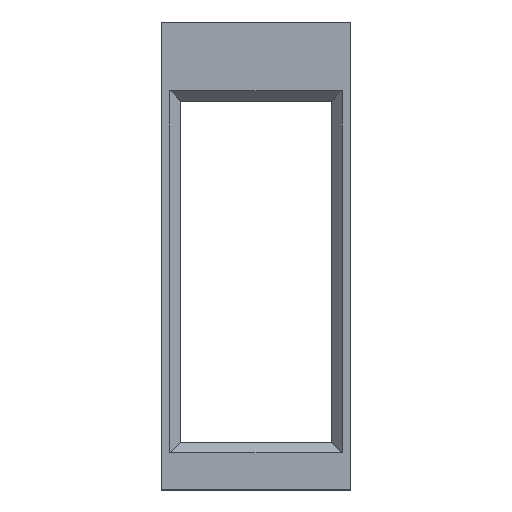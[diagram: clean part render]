
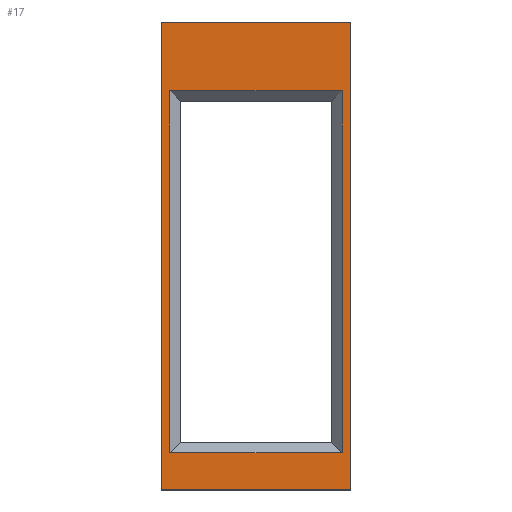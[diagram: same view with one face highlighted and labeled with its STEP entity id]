
A CAD part, top view. The second image highlights one B-rep face of the part: STEP entity #17.
In plain terms, the highlighted planar face has unit normal (0, 0, 1).
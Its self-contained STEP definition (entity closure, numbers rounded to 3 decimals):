
#17 = ADVANCED_FACE('',(#18,#137),#32,.T.);
#18 = FACE_BOUND('',#19,.T.);
#19 = EDGE_LOOP('',(#20,#55,#83,#111));
#20 = ORIENTED_EDGE('',*,*,#21,.T.);
#21 = EDGE_CURVE('',#22,#24,#26,.T.);
#22 = VERTEX_POINT('',#23);
#23 = CARTESIAN_POINT('',(6.8,13.05,0.));
#24 = VERTEX_POINT('',#25);
#25 = CARTESIAN_POINT('',(6.8,-15.55,0.));
#26 = SURFACE_CURVE('',#27,(#31,#43),.PCURVE_S1.);
#27 = LINE('',#28,#29);
#28 = CARTESIAN_POINT('',(6.8,13.05,0.));
#29 = VECTOR('',#30,1.);
#30 = DIRECTION('',(-0.,-1.,-0.));
#31 = PCURVE('',#32,#37);
#32 = PLANE('',#33);
#33 = AXIS2_PLACEMENT_3D('',#34,#35,#36);
#34 = CARTESIAN_POINT('',(0.,0.,0.));
#35 = DIRECTION('',(0.,0.,1.));
#36 = DIRECTION('',(1.,0.,0.));
#37 = DEFINITIONAL_REPRESENTATION('',(#38),#42);
#38 = LINE('',#39,#40);
#39 = CARTESIAN_POINT('',(6.8,13.05));
#40 = VECTOR('',#41,1.);
#41 = DIRECTION('',(0.,-1.));
#42 = ( GEOMETRIC_REPRESENTATION_CONTEXT(2) 
PARAMETRIC_REPRESENTATION_CONTEXT() REPRESENTATION_CONTEXT('2D SPACE',''
  ) );
#43 = PCURVE('',#44,#49);
#44 = PLANE('',#45);
#45 = AXIS2_PLACEMENT_3D('',#46,#47,#48);
#46 = CARTESIAN_POINT('',(6.411,-1.25,-0.389));
#47 = DIRECTION('',(-0.707,0.,0.707));
#48 = DIRECTION('',(-0.707,0.,-0.707));
#49 = DEFINITIONAL_REPRESENTATION('',(#50),#54);
#50 = LINE('',#51,#52);
#51 = CARTESIAN_POINT('',(-0.55,-14.3));
#52 = VECTOR('',#53,1.);
#53 = DIRECTION('',(0.,1.));
#54 = ( GEOMETRIC_REPRESENTATION_CONTEXT(2) 
PARAMETRIC_REPRESENTATION_CONTEXT() REPRESENTATION_CONTEXT('2D SPACE',''
  ) );
#55 = ORIENTED_EDGE('',*,*,#56,.F.);
#56 = EDGE_CURVE('',#57,#24,#59,.T.);
#57 = VERTEX_POINT('',#58);
#58 = CARTESIAN_POINT('',(-6.8,-15.55,0.));
#59 = SURFACE_CURVE('',#60,(#64,#71),.PCURVE_S1.);
#60 = LINE('',#61,#62);
#61 = CARTESIAN_POINT('',(-3.,-15.55,0.));
#62 = VECTOR('',#63,1.);
#63 = DIRECTION('',(1.,0.,0.));
#64 = PCURVE('',#32,#65);
#65 = DEFINITIONAL_REPRESENTATION('',(#66),#70);
#66 = LINE('',#67,#68);
#67 = CARTESIAN_POINT('',(-3.,-15.55));
#68 = VECTOR('',#69,1.);
#69 = DIRECTION('',(1.,0.));
#70 = ( GEOMETRIC_REPRESENTATION_CONTEXT(2) 
PARAMETRIC_REPRESENTATION_CONTEXT() REPRESENTATION_CONTEXT('2D SPACE',''
  ) );
#71 = PCURVE('',#72,#77);
#72 = PLANE('',#73);
#73 = AXIS2_PLACEMENT_3D('',#74,#75,#76);
#74 = CARTESIAN_POINT('',(-6.,-15.15,-0.4));
#75 = DIRECTION('',(0.,-0.707,-0.707)
  );
#76 = DIRECTION('',(-1.,0.,0.));
#77 = DEFINITIONAL_REPRESENTATION('',(#78),#82);
#78 = LINE('',#79,#80);
#79 = CARTESIAN_POINT('',(-3.,-0.566));
#80 = VECTOR('',#81,1.);
#81 = DIRECTION('',(-1.,0.));
#82 = ( GEOMETRIC_REPRESENTATION_CONTEXT(2) 
PARAMETRIC_REPRESENTATION_CONTEXT() REPRESENTATION_CONTEXT('2D SPACE',''
  ) );
#83 = ORIENTED_EDGE('',*,*,#84,.F.);
#84 = EDGE_CURVE('',#85,#57,#87,.T.);
#85 = VERTEX_POINT('',#86);
#86 = CARTESIAN_POINT('',(-6.8,13.05,0.));
#87 = SURFACE_CURVE('',#88,(#92,#99),.PCURVE_S1.);
#88 = LINE('',#89,#90);
#89 = CARTESIAN_POINT('',(-6.8,-14.75,0.));
#90 = VECTOR('',#91,1.);
#91 = DIRECTION('',(0.,-1.,0.));
#92 = PCURVE('',#32,#93);
#93 = DEFINITIONAL_REPRESENTATION('',(#94),#98);
#94 = LINE('',#95,#96);
#95 = CARTESIAN_POINT('',(-6.8,-14.75));
#96 = VECTOR('',#97,1.);
#97 = DIRECTION('',(0.,-1.));
#98 = ( GEOMETRIC_REPRESENTATION_CONTEXT(2) 
PARAMETRIC_REPRESENTATION_CONTEXT() REPRESENTATION_CONTEXT('2D SPACE',''
  ) );
#99 = PCURVE('',#100,#105);
#100 = PLANE('',#101);
#101 = AXIS2_PLACEMENT_3D('',#102,#103,#104);
#102 = CARTESIAN_POINT('',(-6.411,-1.25,-0.389));
#103 = DIRECTION('',(0.707,0.,0.707));
#104 = DIRECTION('',(-0.707,0.,0.707));
#105 = DEFINITIONAL_REPRESENTATION('',(#106),#110);
#106 = LINE('',#107,#108);
#107 = CARTESIAN_POINT('',(0.55,13.5));
#108 = VECTOR('',#109,1.);
#109 = DIRECTION('',(0.,1.));
#110 = ( GEOMETRIC_REPRESENTATION_CONTEXT(2) 
PARAMETRIC_REPRESENTATION_CONTEXT() REPRESENTATION_CONTEXT('2D SPACE',''
  ) );
#111 = ORIENTED_EDGE('',*,*,#112,.F.);
#112 = EDGE_CURVE('',#22,#85,#113,.T.);
#113 = SURFACE_CURVE('',#114,(#118,#125),.PCURVE_S1.);
#114 = LINE('',#115,#116);
#115 = CARTESIAN_POINT('',(3.,13.05,0.));
#116 = VECTOR('',#117,1.);
#117 = DIRECTION('',(-1.,0.,0.));
#118 = PCURVE('',#32,#119);
#119 = DEFINITIONAL_REPRESENTATION('',(#120),#124);
#120 = LINE('',#121,#122);
#121 = CARTESIAN_POINT('',(3.,13.05));
#122 = VECTOR('',#123,1.);
#123 = DIRECTION('',(-1.,0.));
#124 = ( GEOMETRIC_REPRESENTATION_CONTEXT(2) 
PARAMETRIC_REPRESENTATION_CONTEXT() REPRESENTATION_CONTEXT('2D SPACE',''
  ) );
#125 = PCURVE('',#126,#131);
#126 = PLANE('',#127);
#127 = AXIS2_PLACEMENT_3D('',#128,#129,#130);
#128 = CARTESIAN_POINT('',(6.,12.65,-0.4));
#129 = DIRECTION('',(0.,0.707,-0.707)
  );
#130 = DIRECTION('',(1.,0.,0.));
#131 = DEFINITIONAL_REPRESENTATION('',(#132),#136);
#132 = LINE('',#133,#134);
#133 = CARTESIAN_POINT('',(-3.,-0.566));
#134 = VECTOR('',#135,1.);
#135 = DIRECTION('',(-1.,0.));
#136 = ( GEOMETRIC_REPRESENTATION_CONTEXT(2) 
PARAMETRIC_REPRESENTATION_CONTEXT() REPRESENTATION_CONTEXT('2D SPACE',''
  ) );
#137 = FACE_BOUND('',#138,.T.);
#138 = EDGE_LOOP('',(#139,#169,#197,#225));
#139 = ORIENTED_EDGE('',*,*,#140,.T.);
#140 = EDGE_CURVE('',#141,#143,#145,.T.);
#141 = VERTEX_POINT('',#142);
#142 = CARTESIAN_POINT('',(-7.5,18.5,0.));
#143 = VERTEX_POINT('',#144);
#144 = CARTESIAN_POINT('',(-7.5,-18.5,0.));
#145 = SURFACE_CURVE('',#146,(#150,#157),.PCURVE_S1.);
#146 = LINE('',#147,#148);
#147 = CARTESIAN_POINT('',(-7.5,18.5,0.));
#148 = VECTOR('',#149,1.);
#149 = DIRECTION('',(0.,-1.,0.));
#150 = PCURVE('',#32,#151);
#151 = DEFINITIONAL_REPRESENTATION('',(#152),#156);
#152 = LINE('',#153,#154);
#153 = CARTESIAN_POINT('',(-7.5,18.5));
#154 = VECTOR('',#155,1.);
#155 = DIRECTION('',(0.,-1.));
#156 = ( GEOMETRIC_REPRESENTATION_CONTEXT(2) 
PARAMETRIC_REPRESENTATION_CONTEXT() REPRESENTATION_CONTEXT('2D SPACE',''
  ) );
#157 = PCURVE('',#158,#163);
#158 = PLANE('',#159);
#159 = AXIS2_PLACEMENT_3D('',#160,#161,#162);
#160 = CARTESIAN_POINT('',(-7.5,18.5,0.));
#161 = DIRECTION('',(-1.,0.,0.));
#162 = DIRECTION('',(0.,-1.,0.));
#163 = DEFINITIONAL_REPRESENTATION('',(#164),#168);
#164 = LINE('',#165,#166);
#165 = CARTESIAN_POINT('',(0.,0.));
#166 = VECTOR('',#167,1.);
#167 = DIRECTION('',(1.,0.));
#168 = ( GEOMETRIC_REPRESENTATION_CONTEXT(2) 
PARAMETRIC_REPRESENTATION_CONTEXT() REPRESENTATION_CONTEXT('2D SPACE',''
  ) );
#169 = ORIENTED_EDGE('',*,*,#170,.T.);
#170 = EDGE_CURVE('',#143,#171,#173,.T.);
#171 = VERTEX_POINT('',#172);
#172 = CARTESIAN_POINT('',(7.5,-18.5,0.));
#173 = SURFACE_CURVE('',#174,(#178,#185),.PCURVE_S1.);
#174 = LINE('',#175,#176);
#175 = CARTESIAN_POINT('',(-7.5,-18.5,0.));
#176 = VECTOR('',#177,1.);
#177 = DIRECTION('',(1.,0.,0.));
#178 = PCURVE('',#32,#179);
#179 = DEFINITIONAL_REPRESENTATION('',(#180),#184);
#180 = LINE('',#181,#182);
#181 = CARTESIAN_POINT('',(-7.5,-18.5));
#182 = VECTOR('',#183,1.);
#183 = DIRECTION('',(1.,0.));
#184 = ( GEOMETRIC_REPRESENTATION_CONTEXT(2) 
PARAMETRIC_REPRESENTATION_CONTEXT() REPRESENTATION_CONTEXT('2D SPACE',''
  ) );
#185 = PCURVE('',#186,#191);
#186 = PLANE('',#187);
#187 = AXIS2_PLACEMENT_3D('',#188,#189,#190);
#188 = CARTESIAN_POINT('',(-7.5,-18.5,0.));
#189 = DIRECTION('',(0.,-1.,0.));
#190 = DIRECTION('',(1.,0.,0.));
#191 = DEFINITIONAL_REPRESENTATION('',(#192),#196);
#192 = LINE('',#193,#194);
#193 = CARTESIAN_POINT('',(0.,0.));
#194 = VECTOR('',#195,1.);
#195 = DIRECTION('',(1.,0.));
#196 = ( GEOMETRIC_REPRESENTATION_CONTEXT(2) 
PARAMETRIC_REPRESENTATION_CONTEXT() REPRESENTATION_CONTEXT('2D SPACE',''
  ) );
#197 = ORIENTED_EDGE('',*,*,#198,.T.);
#198 = EDGE_CURVE('',#171,#199,#201,.T.);
#199 = VERTEX_POINT('',#200);
#200 = CARTESIAN_POINT('',(7.5,18.5,0.));
#201 = SURFACE_CURVE('',#202,(#206,#213),.PCURVE_S1.);
#202 = LINE('',#203,#204);
#203 = CARTESIAN_POINT('',(7.5,-18.5,0.));
#204 = VECTOR('',#205,1.);
#205 = DIRECTION('',(0.,1.,0.));
#206 = PCURVE('',#32,#207);
#207 = DEFINITIONAL_REPRESENTATION('',(#208),#212);
#208 = LINE('',#209,#210);
#209 = CARTESIAN_POINT('',(7.5,-18.5));
#210 = VECTOR('',#211,1.);
#211 = DIRECTION('',(0.,1.));
#212 = ( GEOMETRIC_REPRESENTATION_CONTEXT(2) 
PARAMETRIC_REPRESENTATION_CONTEXT() REPRESENTATION_CONTEXT('2D SPACE',''
  ) );
#213 = PCURVE('',#214,#219);
#214 = PLANE('',#215);
#215 = AXIS2_PLACEMENT_3D('',#216,#217,#218);
#216 = CARTESIAN_POINT('',(7.5,-18.5,0.));
#217 = DIRECTION('',(1.,0.,0.));
#218 = DIRECTION('',(0.,1.,0.));
#219 = DEFINITIONAL_REPRESENTATION('',(#220),#224);
#220 = LINE('',#221,#222);
#221 = CARTESIAN_POINT('',(0.,0.));
#222 = VECTOR('',#223,1.);
#223 = DIRECTION('',(1.,0.));
#224 = ( GEOMETRIC_REPRESENTATION_CONTEXT(2) 
PARAMETRIC_REPRESENTATION_CONTEXT() REPRESENTATION_CONTEXT('2D SPACE',''
  ) );
#225 = ORIENTED_EDGE('',*,*,#226,.T.);
#226 = EDGE_CURVE('',#199,#141,#227,.T.);
#227 = SURFACE_CURVE('',#228,(#232,#239),.PCURVE_S1.);
#228 = LINE('',#229,#230);
#229 = CARTESIAN_POINT('',(7.5,18.5,0.));
#230 = VECTOR('',#231,1.);
#231 = DIRECTION('',(-1.,0.,0.));
#232 = PCURVE('',#32,#233);
#233 = DEFINITIONAL_REPRESENTATION('',(#234),#238);
#234 = LINE('',#235,#236);
#235 = CARTESIAN_POINT('',(7.5,18.5));
#236 = VECTOR('',#237,1.);
#237 = DIRECTION('',(-1.,0.));
#238 = ( GEOMETRIC_REPRESENTATION_CONTEXT(2) 
PARAMETRIC_REPRESENTATION_CONTEXT() REPRESENTATION_CONTEXT('2D SPACE',''
  ) );
#239 = PCURVE('',#240,#245);
#240 = PLANE('',#241);
#241 = AXIS2_PLACEMENT_3D('',#242,#243,#244);
#242 = CARTESIAN_POINT('',(7.5,18.5,0.));
#243 = DIRECTION('',(0.,1.,0.));
#244 = DIRECTION('',(-1.,0.,0.));
#245 = DEFINITIONAL_REPRESENTATION('',(#246),#250);
#246 = LINE('',#247,#248);
#247 = CARTESIAN_POINT('',(0.,0.));
#248 = VECTOR('',#249,1.);
#249 = DIRECTION('',(1.,0.));
#250 = ( GEOMETRIC_REPRESENTATION_CONTEXT(2) 
PARAMETRIC_REPRESENTATION_CONTEXT() REPRESENTATION_CONTEXT('2D SPACE',''
  ) );
